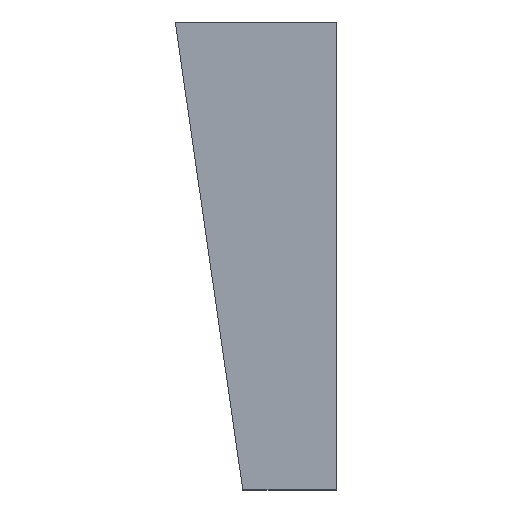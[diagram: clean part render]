
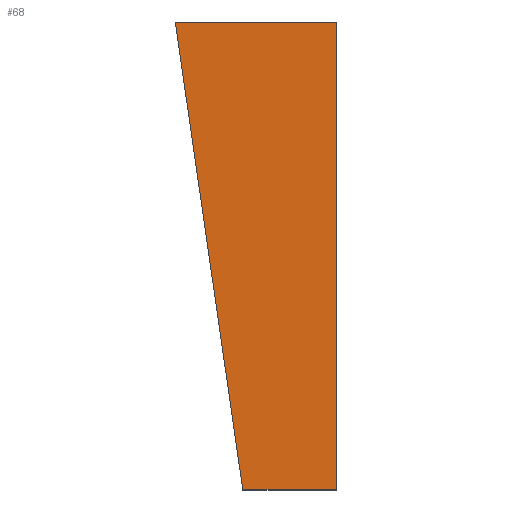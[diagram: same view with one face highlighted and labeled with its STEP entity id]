
A CAD part, top view. The second image highlights one B-rep face of the part: STEP entity #68.
In plain terms, the highlighted planar face has unit normal (0, 0, 1).
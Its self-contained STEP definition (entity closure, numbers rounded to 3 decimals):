
#42=FACE_OUTER_BOUND($,#48,.F.);
#48=EDGE_LOOP($,(#74,#75,#76,#77));
#54=AXIS2_PLACEMENT_3D($,#188,#166,$);
#62=PLANE($,#54);
#68=ADVANCED_FACE($,(#42),#62,.T.);
#74=ORIENTED_EDGE($,*,*,#98,.T.);
#75=ORIENTED_EDGE($,*,*,#99,.T.);
#76=ORIENTED_EDGE($,*,*,#100,.T.);
#77=ORIENTED_EDGE($,*,*,#101,.T.);
#98=EDGE_CURVE($,#137,#138,#124,.T.);
#99=EDGE_CURVE($,#138,#139,#125,.T.);
#100=EDGE_CURVE($,#139,#140,#126,.T.);
#101=EDGE_CURVE($,#140,#137,#127,.T.);
#111=VECTOR($,#169,1717.564);
#112=VECTOR($,#170,586.23);
#113=VECTOR($,#171,1700.);
#114=VECTOR($,#172,341.23);
#124=LINE($,#187,#111);
#125=LINE($,#188,#112);
#126=LINE($,#189,#113);
#127=LINE($,#190,#114);
#137=VERTEX_POINT($,#187);
#138=VERTEX_POINT($,#188);
#139=VERTEX_POINT($,#189);
#140=VERTEX_POINT($,#190);
#166=DIRECTION($,(0.,0.,1.));
#169=DIRECTION($,(-0.143,0.99,0.));
#170=DIRECTION($,(1.,0.,0.));
#171=DIRECTION($,(0.,-1.,0.));
#172=DIRECTION($,(-1.,0.,0.));
#187=CARTESIAN_POINT('',(-16.77,0.,0.));
#188=CARTESIAN_POINT('',(-261.77,1700.,0.));
#189=CARTESIAN_POINT('',(324.46,1700.,0.));
#190=CARTESIAN_POINT('',(324.46,0.,0.));
